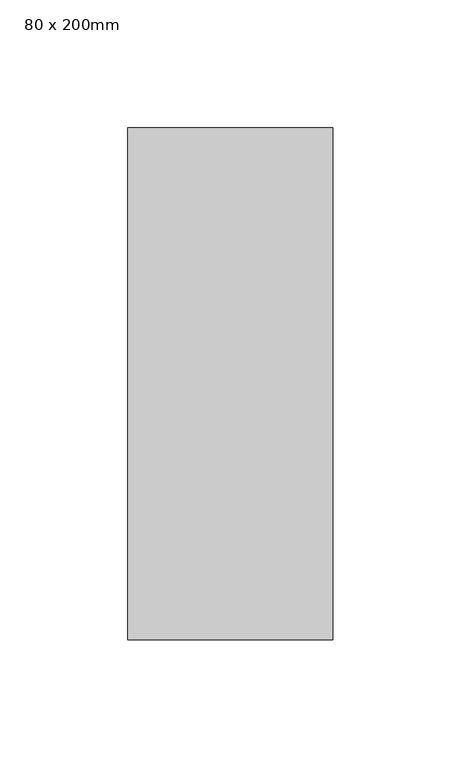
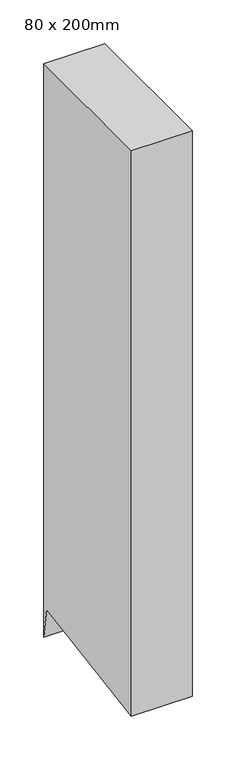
"""IFC4 building model written with IfcOpenShell, lengths in millimetres: member geometry, 矩形竖梃 : 80 x 200mm."""

from ifc_helpers import new_model, si_unit, origin, place, context, project, spatial, faceted_brep, source, transform, mapped, element, save


def member_80_x_200mm_4b454364(model_context):
    return source(origin(), model_context, "Body", "Brep", [
        faceted_brep([(40.0, 100.0, 0.0), (-40.0, 100.0, 0.0), (-40.0, -100.0, 0.0), (40.0, -100.0, 0.0), (40.0, 100.0, -798.7069919), (0.0, 100.0, -798.7069919), (-40.0, 100.0, -798.7069919), (-40.0, 92.973187, -756.0930148), (-40.0, -100.0, -787.9132435), (0.0, -100.0, -787.9132435), (40.0, -100.0, -787.9132435), (40.0, 92.973187, -756.0930148), (0.0, 92.973187, -756.0930148)], [[[0, 1, 2, 3]], [[1, 0, 4, 5, 6]], [[2, 1, 6, 7, 8]], [[3, 2, 8, 9, 10]], [[0, 3, 10, 11, 4]], [[4, 11, 12, 5]], [[11, 10, 9, 12]], [[9, 8, 7, 12]], [[7, 6, 5, 12]]]),
    ])


if __name__ == "__main__":
    model = new_model("IFC4")
    model_context = context("Model", 3, world=origin())
    ifc_project = project(units=[si_unit("LENGTHUNIT", "METRE", prefix="MILLI")], contexts=[model_context])
    site = spatial("IfcSite", under=ifc_project)
    building = spatial("IfcBuilding", under=site)
    placement = place(None, origin())
    member_80_x_200mm_shape = member_80_x_200mm_4b454364(model_context)
    element("IfcMember", 1, ObjectType="矩形竖梃 : 80 x 200mm", at=placement, inside=building, context=model_context, shape_type="MappedRepresentation", body=[
        mapped(member_80_x_200mm_shape, transform((0.0, 0.0, 0.0), x_axis=(1.0, 0.0, 0.0), y_axis=(0.0, 1.0, 0.0), z_axis=(0.0, 0.0, 1.0))),
    ])
    save(model, "model.ifc")
